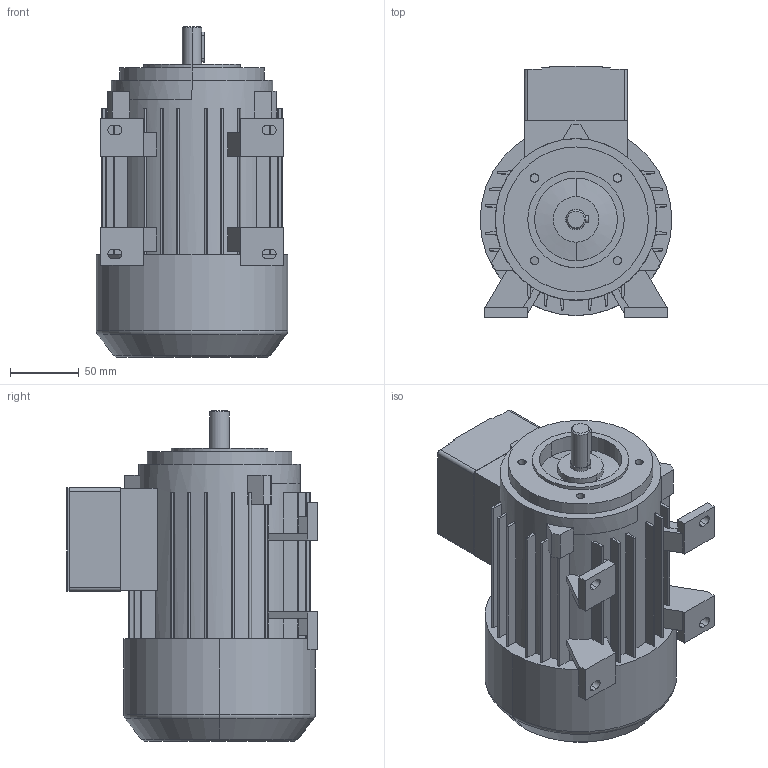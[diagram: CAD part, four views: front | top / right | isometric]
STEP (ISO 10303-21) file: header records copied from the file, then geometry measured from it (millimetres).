
FILE_DESCRIPTION((''),'2;1');
FILE_NAME('1LA7070-2AA17_PRT','2002-04-12T',('martin könig'),(''),'PRO/ENGINEER BY PARAMETRIC TECHNOLOGY CORPORATION, 2002030','PRO/ENGINEER BY PARAMETRIC TECHNOLOGY CORPORATION, 2002030','');
FILE_SCHEMA(('CONFIG_CONTROL_DESIGN'));
Length unit declared in the file: millimetre
Products named in the file (1): 1LA7070-2AA17_PRT
Bounding box: 139 x 182 x 240 mm (x, y, z)
Volume: 2892233 mm3; surface area: 181135.5 mm2
Topology: 1 solids, 1 shells, 285 faces, 787 edges, 517 vertices
Faces by surface type: plane 187, cylinder 84, cone 10, torus 4
Entity records: 9250 total; most frequent: CARTESIAN_POINT 1712, DIRECTION 1587, ORIENTED_EDGE 1574, EDGE_CURVE 787, VECTOR 529, LINE 529, AXIS2_PLACEMENT_3D 529, VERTEX_POINT 517
